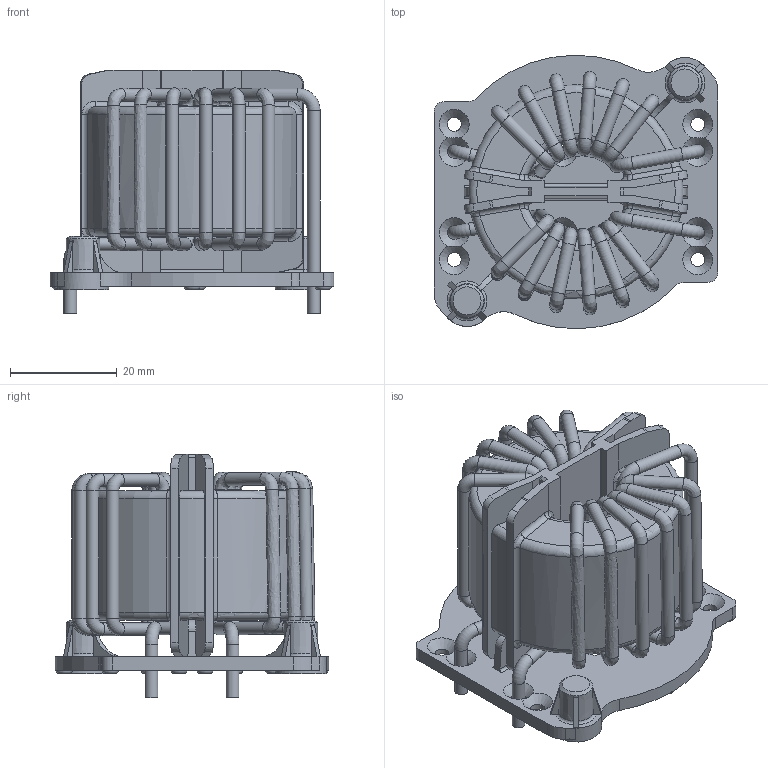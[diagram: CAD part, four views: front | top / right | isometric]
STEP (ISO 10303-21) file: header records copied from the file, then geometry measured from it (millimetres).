
FILE_DESCRIPTION((''),'2;1');
FILE_NAME('K:\Development\Projects\RB\Angel_standard choke series 2011\70_Realization_Revision\702_MechanicalDesign\Drawing for Harald\RB6122-25-0M6.stp','2012-10-23T12:02:43',('Fiona.chen'),(''),'Autodesk Inventor 2010','Autodesk Inventor 2010','');
FILE_SCHEMA(('AUTOMOTIVE_DESIGN { 1 0 10303 214 1 1 1 1 }'));
Length unit declared in the file: millimetre
Products named in the file (1): 零件14
Bounding box: 53.3 x 51.33 x 45.63 mm (x, y, z)
Volume: 37272.1 mm3; surface area: 24359.9 mm2
Topology: 1 solids, 1 shells, 670 faces, 1790 edges, 1141 vertices
Faces by surface type: plane 326, cylinder 160, bspline 86, torus 68, cone 30
Full cylindrical faces by diameter (mm): 2.4 x34, 2.6 x10, 3 x8, 9.6 x2
Entity records: 24262 total; most frequent: CARTESIAN_POINT 8197, ORIENTED_EDGE 3136, DIRECTION 3013, EDGE_CURVE 1568, AXIS2_PLACEMENT_3D 1096, VERTEX_POINT 1087, EDGE_LOOP 903, VECTOR 821
